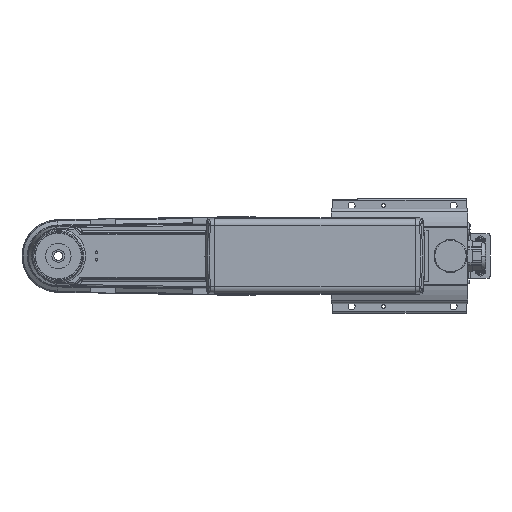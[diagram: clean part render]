
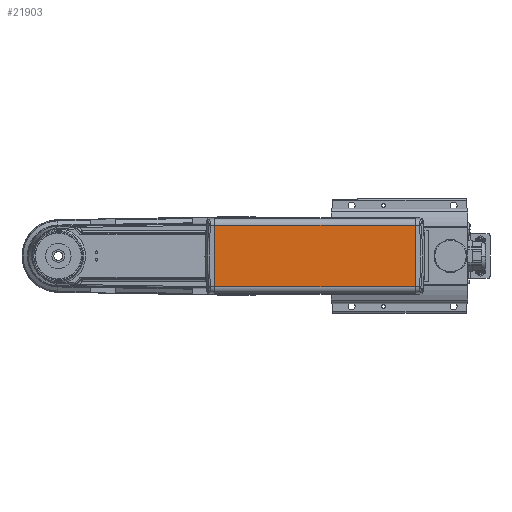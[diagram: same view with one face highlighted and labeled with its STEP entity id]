
A CAD part, front view. The second image highlights one B-rep face of the part: STEP entity #21903.
In plain terms, the highlighted planar face has unit normal (0, -1, 0).
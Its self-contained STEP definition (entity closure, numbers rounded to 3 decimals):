
#18649=CARTESIAN_POINT('',(59.993,-249.,
48.357));
#18666=DIRECTION('',(1.,0.,0.));
#18667=VECTOR('',#18666,314.988);
#18668=CARTESIAN_POINT('',(-254.994,-249.,
-48.345));
#18669=LINE('',#18668,#18667);
#18712=CARTESIAN_POINT('',(-254.994,-249.,
-48.345));
#18755=DIRECTION('',(0.,0.,-1.));
#18756=VECTOR('',#18755,96.425);
#18757=CARTESIAN_POINT('',(-255.,-249.,
48.213));
#18758=LINE('',#18757,#18756);
#18759=CARTESIAN_POINT('',(-255.,-249.,
48.213));
#18760=CARTESIAN_POINT('',(-255.,-249.,
48.236));
#18761=CARTESIAN_POINT('',(-254.99,-249.,
48.284));
#18762=CARTESIAN_POINT('',(-254.999,-249.,
48.332));
#18763=CARTESIAN_POINT('',(-254.993,-249.,
48.357));
#18765=CARTESIAN_POINT('',(59.993,-249.,
48.357));
#18766=CARTESIAN_POINT('',(59.999,-249.,
48.332));
#18767=CARTESIAN_POINT('',(59.99,-249.,
48.284));
#18768=CARTESIAN_POINT('',(60.,-249.,48.236));
#18769=CARTESIAN_POINT('',(60.,-249.,48.213));
#18771=DIRECTION('',(0.,0.,-1.));
#18772=VECTOR('',#18771,96.425);
#18773=CARTESIAN_POINT('',(60.,-249.,48.213));
#18774=LINE('',#18773,#18772);
#18775=CARTESIAN_POINT('',(60.,-249.,
-48.213));
#18776=CARTESIAN_POINT('',(60.,-249.,
-48.234));
#18777=CARTESIAN_POINT('',(59.992,-249.,
-48.279));
#18778=CARTESIAN_POINT('',(59.999,-249.,
-48.322));
#18779=CARTESIAN_POINT('',(59.994,-249.,
-48.345));
#18781=CARTESIAN_POINT('',(-254.994,-249.,
-48.345));
#18782=CARTESIAN_POINT('',(-254.999,-249.,
-48.322));
#18783=CARTESIAN_POINT('',(-254.992,-249.,
-48.279));
#18784=CARTESIAN_POINT('',(-255.,-249.,-48.234));
#18785=CARTESIAN_POINT('',(-255.,-249.,-48.213));
#18817=DIRECTION('',(-1.,0.,0.));
#18818=VECTOR('',#18817,314.986);
#18819=CARTESIAN_POINT('',(59.993,-249.,
48.357));
#18820=LINE('',#18819,#18818);
#19733=CARTESIAN_POINT('',(60.,-249.,48.213));
#19734=CARTESIAN_POINT('',(60.,-249.,
-48.213));
#19735=VERTEX_POINT('',#19733);
#19736=VERTEX_POINT('',#19734);
#19743=VERTEX_POINT('',#18779);
#19746=VERTEX_POINT('',#18649);
#19756=CARTESIAN_POINT('',(-255.,-249.,
48.213));
#19757=CARTESIAN_POINT('',(-255.,-249.,-48.213));
#19758=VERTEX_POINT('',#19756);
#19759=VERTEX_POINT('',#19757);
#19764=VERTEX_POINT('',#18763);
#19766=VERTEX_POINT('',#18712);
#21882=CARTESIAN_POINT('',(-97.5,-249.,0.006));
#21883=DIRECTION('',(0.,1.,0.));
#21884=DIRECTION('',(1.,0.,0.));
#21885=AXIS2_PLACEMENT_3D('',#21882,#21883,#21884);
#21886=PLANE('',#21885);
#21888=ORIENTED_EDGE('',*,*,#21887,.F.);
#21889=ORIENTED_EDGE('',*,*,#21864,.T.);
#21891=ORIENTED_EDGE('',*,*,#21890,.F.);
#21893=ORIENTED_EDGE('',*,*,#21892,.T.);
#21895=ORIENTED_EDGE('',*,*,#21894,.T.);
#21897=ORIENTED_EDGE('',*,*,#21896,.T.);
#21898=ORIENTED_EDGE('',*,*,#21776,.F.);
#21900=ORIENTED_EDGE('',*,*,#21899,.T.);
#21901=EDGE_LOOP('',(#21888,#21889,#21891,#21893,#21895,#21897,#21898,#21900));
#21902=FACE_OUTER_BOUND('',#21901,.F.);
#18764=B_SPLINE_CURVE_WITH_KNOTS('',3,(#18759,#18760,#18761,#18762,#18763),
.UNSPECIFIED.,.F.,.F.,(4,1,4),(0.,0.5,1.),.UNSPECIFIED.);
#18770=B_SPLINE_CURVE_WITH_KNOTS('',3,(#18765,#18766,#18767,#18768,#18769),
.UNSPECIFIED.,.F.,.F.,(4,1,4),(0.,0.5,1.),.UNSPECIFIED.);
#18780=B_SPLINE_CURVE_WITH_KNOTS('',3,(#18775,#18776,#18777,#18778,#18779),
.UNSPECIFIED.,.F.,.F.,(4,1,4),(0.,0.5,1.),.UNSPECIFIED.);
#18786=B_SPLINE_CURVE_WITH_KNOTS('',3,(#18781,#18782,#18783,#18784,#18785),
.UNSPECIFIED.,.F.,.F.,(4,1,4),(0.,0.5,1.),.UNSPECIFIED.);
#21776=EDGE_CURVE('',#19766,#19743,#18669,.T.);
#21864=EDGE_CURVE('',#19758,#19764,#18764,.T.);
#21887=EDGE_CURVE('',#19758,#19759,#18758,.T.);
#21890=EDGE_CURVE('',#19746,#19764,#18820,.T.);
#21892=EDGE_CURVE('',#19746,#19735,#18770,.T.);
#21894=EDGE_CURVE('',#19735,#19736,#18774,.T.);
#21896=EDGE_CURVE('',#19736,#19743,#18780,.T.);
#21899=EDGE_CURVE('',#19766,#19759,#18786,.T.);
#21903=ADVANCED_FACE('',(#21902),#21886,.F.);
